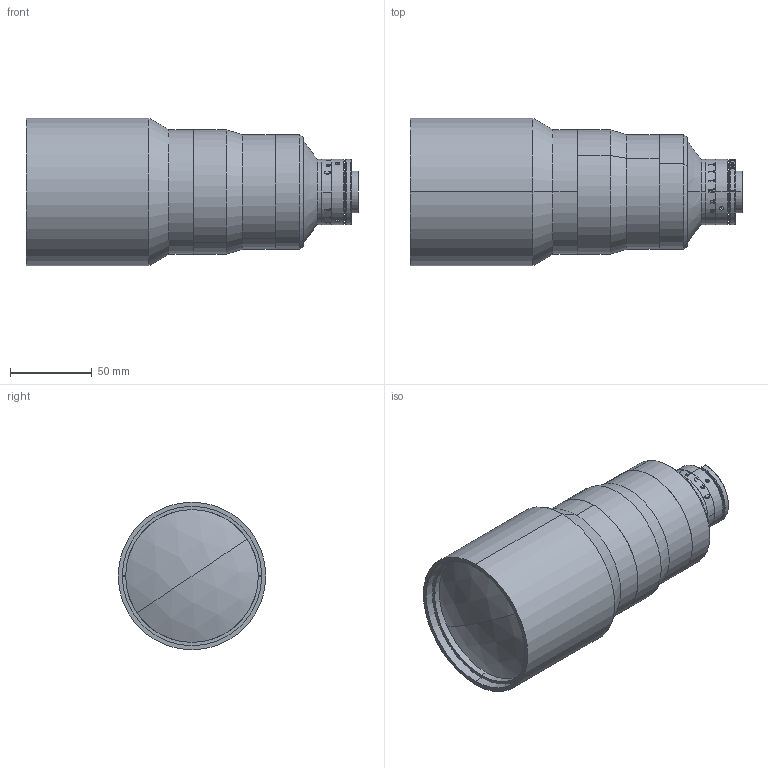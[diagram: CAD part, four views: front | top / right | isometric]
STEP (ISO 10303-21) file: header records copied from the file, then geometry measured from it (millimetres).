
FILE_DESCRIPTION (( 'STEP AP203' ), '1' );
FILE_NAME ('XF-PTL06508-C-(HD).STEP', '2019-02-15T02:32:23', ( 'zhanghp' ), ( '' ), 'SwSTEP 2.0', 'SolidWorks 2014', '' );
FILE_SCHEMA (( 'CONFIG_CONTROL_DESIGN' ));
Length unit declared in the file: millimetre
Products named in the file (1): XF-PTL06508-C-(HD)
Bounding box: 202.46 x 90 x 90 mm (x, y, z)
Surface area: 70464.6 mm2 (no closed solid volume)
Topology: 0 solids, 30 shells, 133 faces, 841 edges, 738 vertices
Faces by surface type: cylinder 67, plane 36, cone 14, torus 12, sphere 2, bspline 2
Entity records: 14349 total; most frequent: CARTESIAN_POINT 8365, DIRECTION 1119, ORIENTED_EDGE 1044, EDGE_CURVE 839, VERTEX_POINT 738, AXIS2_PLACEMENT_3D 436, CIRCLE 304, B_SPLINE_CURVE_WITH_KNOTS 288
